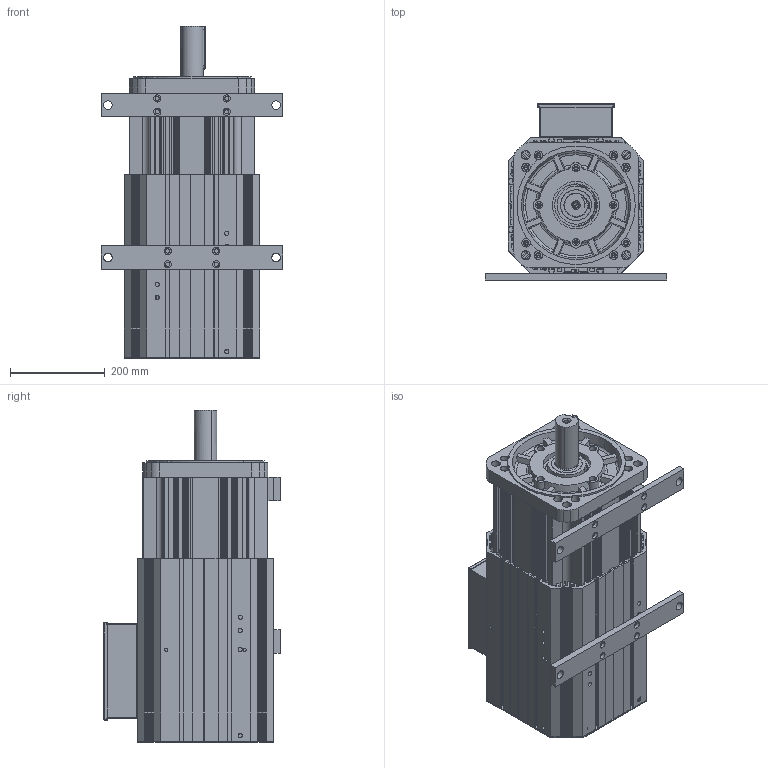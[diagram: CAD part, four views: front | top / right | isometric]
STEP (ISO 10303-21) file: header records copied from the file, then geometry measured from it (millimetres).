
FILE_DESCRIPTION (( 'STEP AP203' ), '1' );
FILE_NAME ('ZE2504.5.STEP', '2024-08-16T12:23:58', ( 'MicroSoft' ), ( 'MicroSoft' ), 'SwSTEP 2.0', 'SolidWorks 2020', '' );
FILE_SCHEMA (( 'CONFIG_CONTROL_DESIGN' ));
Length unit declared in the file: millimetre
Products named in the file (23): Z25-01-25（25接线盒密封垫）; Z25-01-02(25前法兰); Z25-01-01(25儂褲)_2506; Z25-01-11(25炵蹈絳瑞啣B)_5-6耀; Z25-01-10(25炵蹈絳瑞啣A)_5-6耀; Z25-01-09(25电机前轴承挡圈); Z25-01-07(25萇儂綴菁褐盓殤) ; Z25-01-03(25綴楊擘); 25諉盄碟郪璃; GB／T276-94深沟球轴承6313-2Z; Z25-01-26（25导轨条）; Z25-01-04(25全系电机轴-旋变)_2506; ZE2504.5; Z25-01-23（25接线盒焊接）; Z25-01-13（25风扇固定片）; Z25-01-27（25端子固定片）; Z25-01-24（25接线盒盖板）; Z25-01-28(晤鎢ん綴欶褲); Z25-01-12(25炵蹈絳瑞啣C)_5-6耀; Z25-01-08(25电机底脚支架垫板); Z25-01-18（前轴承压盖）; Z25-01-06(25萇儂ヶ菁褐盓殤); 25す瑩ㄗ14-9-91ㄘ
Assembly tree (23 placements, depth 3):
  ZE2504.5
    Z25-01-02(25前法兰)
    Z25-01-01(25儂褲)_2506
    Z25-01-03(25綴楊擘)
    GB／T276-94深沟球轴承6313-2Z
    Z25-01-06(25萇儂ヶ菁褐盓殤)
    Z25-01-07(25萇儂綴菁褐盓殤) 
    Z25-01-08(25电机底脚支架垫板)
    Z25-01-09(25电机前轴承挡圈)
    25す瑩ㄗ14-9-91ㄘ
    Z25-01-13（25风扇固定片）
    Z25-01-18（前轴承压盖）
    Z25-01-28(晤鎢ん綴欶褲)
    25諉盄碟郪璃
      Z25-01-23（25接线盒焊接）
      Z25-01-26（25导轨条）
      Z25-01-27（25端子固定片）
      Z25-01-24（25接线盒盖板）
      Z25-01-25（25接线盒密封垫）
    Z25-01-04(25全系电机轴-旋变)_2506
    Z25-01-10(25炵蹈絳瑞啣A)_5-6耀
    Z25-01-11(25炵蹈絳瑞啣B)_5-6耀
    Z25-01-12(25炵蹈絳瑞啣C)_5-6耀  x2
Bounding box: 384 x 372.9 x 701 mm (x, y, z)
Volume: 13219185.6 mm3; surface area: 3775352.8 mm2
Topology: 23 solids, 23 shells, 3214 faces, 8975 edges, 5778 vertices
Faces by surface type: cylinder 1462, plane 1238, cone 191, sphere 118, torus 107, bspline 98
Entity records: 105468 total; most frequent: CARTESIAN_POINT 27665, DIRECTION 16075, ORIENTED_EDGE 15924, EDGE_CURVE 7962, AXIS2_PLACEMENT_3D 5954, VERTEX_POINT 5146, VECTOR 4167, LINE 4167
